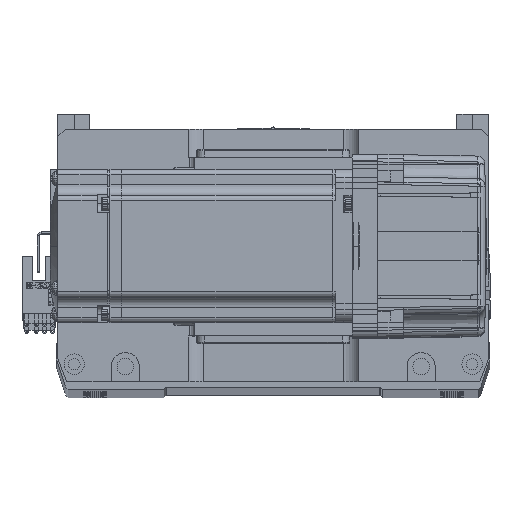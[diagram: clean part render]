
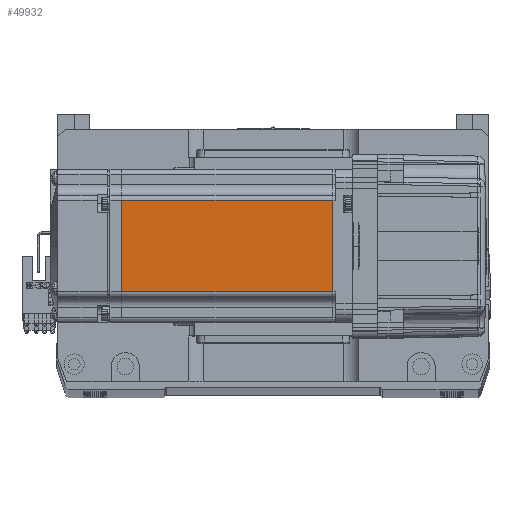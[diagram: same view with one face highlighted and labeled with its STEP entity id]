
A CAD part, top view. The second image highlights one B-rep face of the part: STEP entity #49932.
In plain terms, the highlighted planar face has unit normal (0, 0, 1).
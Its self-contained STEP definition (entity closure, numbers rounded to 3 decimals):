
#362 = ORIENTED_EDGE ( 'NONE', *, *, #29683, .F. ) ;
#2754 = VERTEX_POINT ( 'NONE', #33891 ) ;
#3284 = CARTESIAN_POINT ( 'NONE',  ( -6.5, 18., 30. ) ) ;
#4632 = VECTOR ( 'NONE', #28563, 1000. ) ;
#5124 = DIRECTION ( 'NONE',  ( 0., 0., 1. ) ) ;
#5432 = DIRECTION ( 'NONE',  ( 0., -1., 0. ) ) ;
#5828 = CARTESIAN_POINT ( 'NONE',  ( -7.75, 18., 30. ) ) ;
#5983 = DIRECTION ( 'NONE',  ( -1., 0., 0. ) ) ;
#9276 = EDGE_LOOP ( 'NONE', ( #362, #38975, #48649, #9669 ) ) ;
#9669 = ORIENTED_EDGE ( 'NONE', *, *, #39351, .F. ) ;
#12315 = LINE ( 'NONE', #30609, #42615 ) ;
#16377 = DIRECTION ( 'NONE',  ( 1., 0., 0. ) ) ;
#18631 = DIRECTION ( 'NONE',  ( -1., 0., 0. ) ) ;
#18942 = EDGE_CURVE ( 'NONE', #40410, #2754, #58926, .T. ) ;
#20450 = VECTOR ( 'NONE', #5983, 1000. ) ;
#26534 = EDGE_CURVE ( 'NONE', #51157, #40410, #30975, .T. ) ;
#28563 = DIRECTION ( 'NONE',  ( 0., -1., 0. ) ) ;
#29222 = LINE ( 'NONE', #61590, #20450 ) ;
#29683 = EDGE_CURVE ( 'NONE', #51157, #50002, #12315, .T. ) ;
#30609 = CARTESIAN_POINT ( 'NONE',  ( -7.75, 0., 30. ) ) ;
#30975 = LINE ( 'NONE', #3284, #48530 ) ;
#31348 = PLANE ( 'NONE',  #35224 ) ;
#32019 = CARTESIAN_POINT ( 'NONE',  ( -90.45, 18., 30. ) ) ;
#33891 = CARTESIAN_POINT ( 'NONE',  ( -90.45, -18., 30. ) ) ;
#35224 = AXIS2_PLACEMENT_3D ( 'NONE', #66271, #5124, #16377 ) ;
#38975 = ORIENTED_EDGE ( 'NONE', *, *, #26534, .T. ) ;
#39351 = EDGE_CURVE ( 'NONE', #50002, #2754, #29222, .T. ) ;
#40410 = VERTEX_POINT ( 'NONE', #32019 ) ;
#42615 = VECTOR ( 'NONE', #5432, 1000. ) ;
#48530 = VECTOR ( 'NONE', #18631, 1000. ) ;
#48649 = ORIENTED_EDGE ( 'NONE', *, *, #18942, .T. ) ;
#49932 = ADVANCED_FACE ( 'NONE', ( #65012 ), #31348, .T. ) ;
#50002 = VERTEX_POINT ( 'NONE', #57931 ) ;
#51157 = VERTEX_POINT ( 'NONE', #5828 ) ;
#52506 = CARTESIAN_POINT ( 'NONE',  ( -90.45, 0., 30. ) ) ;
#57931 = CARTESIAN_POINT ( 'NONE',  ( -7.75, -18., 30. ) ) ;
#58926 = LINE ( 'NONE', #52506, #4632 ) ;
#61590 = CARTESIAN_POINT ( 'NONE',  ( -6.5, -18., 30. ) ) ;
#65012 = FACE_OUTER_BOUND ( 'NONE', #9276, .T. ) ;
#66271 = CARTESIAN_POINT ( 'NONE',  ( -6.5, -25., 30. ) ) ;
